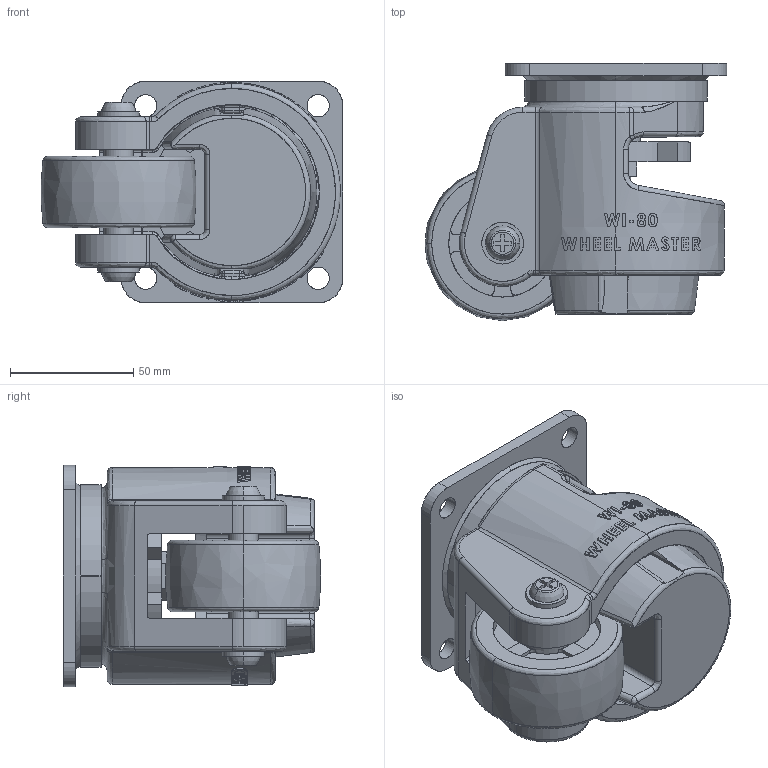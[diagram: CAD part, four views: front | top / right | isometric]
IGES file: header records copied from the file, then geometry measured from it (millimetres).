
Start section: SolidWorks IGES file using analytic representation for surfaces
Global section: file name: 1HH:\辫屈霖累诀\快老墨促肺弊(NEW)\权其捞瘤诀肺靛侩3D\WI80FP.IGS; native system: SolidWorks 2010; preprocessor: SolidWorks 2010; author: Administrator; date: 110129.140744; units: millimetre
Bounding box: 122.41 x 104.41 x 90 mm (x, y, z)
Surface area: 112458.1 mm2 (no closed solid volume)
Topology: 0 solids, 0 shells, 993 faces, 12574 edges, 12560 vertices
Faces by surface type: bspline 737, revolution 256
